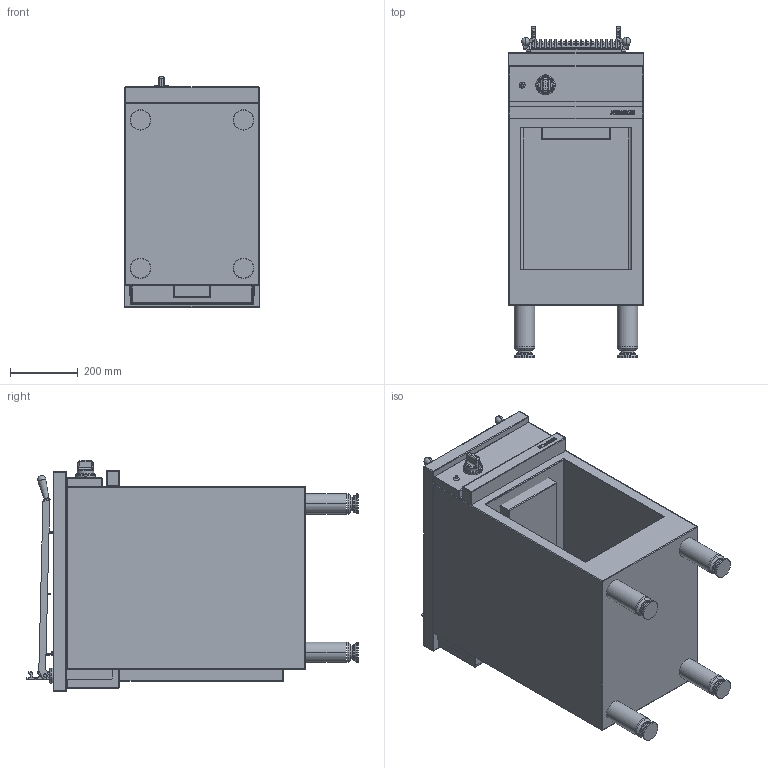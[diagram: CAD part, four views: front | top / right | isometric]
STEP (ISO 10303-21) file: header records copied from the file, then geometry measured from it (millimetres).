
FILE_DESCRIPTION((''),'2;1');
FILE_NAME('CMG410CKG_EXPORT_STEP_ASM','2017-11-22T',('r.avril'),(''),'PRO/ENGINEER BY PARAMETRIC TECHNOLOGY CORPORATION, 2014200','PRO/ENGINEER BY PARAMETRIC TECHNOLOGY CORPORATION, 2014200','');
FILE_SCHEMA(('AP203_CONFIGURATION_CONTROLLED_3D_DESIGN_OF_MECHANICAL_PARTS_AND_ASSEMBLIES_MIM_LF { 1 0 10303 403 2 1 2 }'));
Length unit declared in the file: millimetre
Products named in the file (15): MODULES_AMB_400_EXPORT_STEP; TABLE_410_CKG; 50884800; 59910842; 59910841; 59910422; 88884800_ASM; 50883600; 50883500; 59910431; 88883600_ASM; TABLE_410_CKG_ASM; MANETTE_AMB_EXPORT_STEP; ALLUMEUR_EXPORT_STEP; CMG410CKG_EXPORT_STEP_ASM
Assembly tree (32 placements, depth 4):
  CMG410CKG_EXPORT_STEP_ASM
    MODULES_AMB_400_EXPORT_STEP
    TABLE_410_CKG_ASM
      TABLE_410_CKG
      88884800_ASM
        50884800  x2
        59910842
        59910841
        59910422
      88883600_ASM
        50883600  x2
        50883500
        59910431  x17
    MANETTE_AMB_EXPORT_STEP
    ALLUMEUR_EXPORT_STEP
Bounding box: 400 x 980 x 682.5 mm (x, y, z)
Volume: 64266997 mm3; surface area: 4782346.8 mm2
Topology: 39 solids, 114 shells, 1272 faces, 3850 edges, 3104 vertices
Faces by surface type: plane 642, cylinder 404, torus 88, sphere 78, cone 30, bspline 30
Entity records: 53457 total; most frequent: CARTESIAN_POINT 13941, DIRECTION 6168, ORIENTED_EDGE 5088, EDGE_CURVE 2881, AXIS2_PLACEMENT_3D 2151, VERTEX_POINT 2007, VECTOR 1821, LINE 1821
